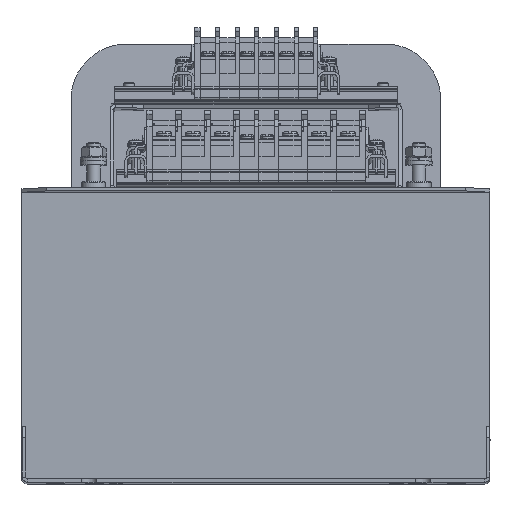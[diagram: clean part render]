
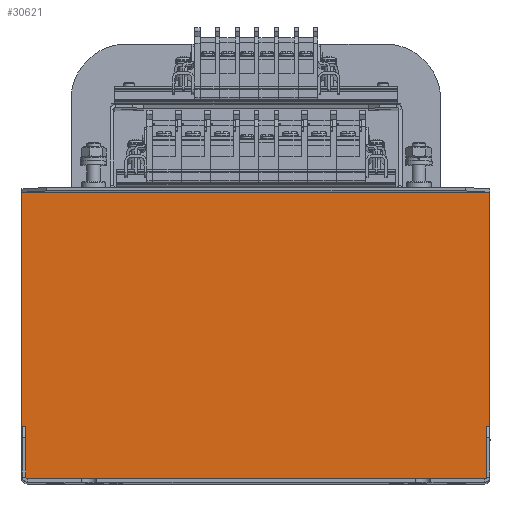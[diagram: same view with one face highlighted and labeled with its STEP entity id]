
A CAD part, top view. The second image highlights one B-rep face of the part: STEP entity #30621.
In plain terms, the highlighted planar face has unit normal (0, 0, 1).
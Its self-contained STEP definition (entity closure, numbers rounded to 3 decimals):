
#30428=CARTESIAN_POINT('',(-105.0,128.535,2.5));
#30429=VERTEX_POINT('',#30428);
#30436=CARTESIAN_POINT('',(105.0,128.535,2.5));
#30437=VERTEX_POINT('',#30436);
#30438=CARTESIAN_POINT('',(105.0,128.535,2.5));
#30439=DIRECTION('',(-1.0,0.0,0.0));
#30440=VECTOR('',#30439,210.0);
#30441=LINE('',#30438,#30440);
#30442=EDGE_CURVE('',#30437,#30429,#30441,.T.);
#30486=CARTESIAN_POINT('',(105.0,0.,2.5));
#30487=VERTEX_POINT('',#30486);
#30488=CARTESIAN_POINT('',(105.0,128.535,2.5));
#30489=DIRECTION('',(0.0,-1.0,0.0));
#30490=VECTOR('',#30489,128.535);
#30491=LINE('',#30488,#30490);
#30492=EDGE_CURVE('',#30437,#30487,#30491,.T.);
#30527=CARTESIAN_POINT('',(-105.0,0.,2.5));
#30528=VERTEX_POINT('',#30527);
#30535=CARTESIAN_POINT('',(-105.0,0.,2.5));
#30536=DIRECTION('',(0.0,1.0,0.0));
#30537=VECTOR('',#30536,128.535);
#30538=LINE('',#30535,#30537);
#30539=EDGE_CURVE('',#30528,#30429,#30538,.T.);
#30600=CARTESIAN_POINT('',(-105.0,0.,2.5));
#30601=DIRECTION('',(1.0,0.0,0.0));
#30602=VECTOR('',#30601,210.0);
#30603=LINE('',#30600,#30602);
#30604=EDGE_CURVE('',#30528,#30487,#30603,.T.);
#30610=CARTESIAN_POINT('',(0.0,130.037,2.5));
#30611=DIRECTION('',(0.0,0.0,1.0));
#30612=DIRECTION('',(0.0,-1.0,0.0));
#30613=AXIS2_PLACEMENT_3D('',#30610,#30611,#30612);
#30614=PLANE('',#30613);
#30615=ORIENTED_EDGE('',*,*,#30442,.T.);
#30616=ORIENTED_EDGE('',*,*,#30539,.F.);
#30617=ORIENTED_EDGE('',*,*,#30604,.T.);
#30618=ORIENTED_EDGE('',*,*,#30492,.F.);
#30619=EDGE_LOOP('',(#30615,#30616,#30617,#30618));
#30620=FACE_OUTER_BOUND('',#30619,.T.);
#30621=ADVANCED_FACE('',(#30620),#30614,.T.);
